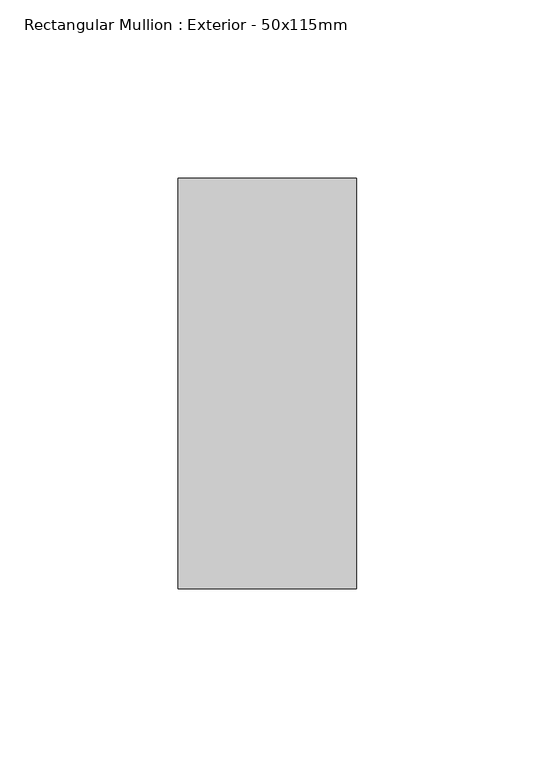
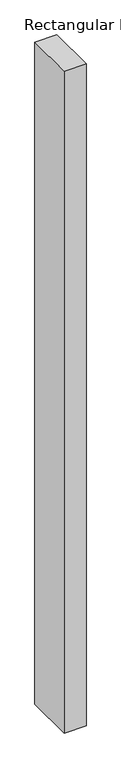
"""IFC4 building model written with IfcOpenShell, lengths in millimetres: member geometry, Rectangular Mullion : Exterior - 50x115mm."""

from ifc_helpers import new_model, si_unit, frame, origin, place, context, project, spatial, polyline, outline, extrude, source, transform, mapped, element, save


def rectangular_mullion_exterior_50x115mm_a06803d9(model_context):
    return source(origin(), model_context, "Body", "SweptSolid", [
        extrude(outline(polyline([(0.0, 107.5), (0.0, -7.5), (-50.0, -7.5), (-50.0, 107.5), (0.0, 107.5)])), frame((0.0, 0.0, -1592.5), z_axis=(0.0, 0.0, 1.0), x_axis=(1.0, 0.0, 0.0)), (0.0, 0.0, 1.0), 1592.5),
    ])


if __name__ == "__main__":
    model = new_model("IFC4")
    model_context = context("Model", 3, world=origin())
    ifc_project = project(units=[si_unit("LENGTHUNIT", "METRE", prefix="MILLI")], contexts=[model_context])
    site = spatial("IfcSite", under=ifc_project)
    building = spatial("IfcBuilding", under=site)
    placement = place(None, origin())
    rectangular_mullion_exterior_50x115mm_shape = rectangular_mullion_exterior_50x115mm_a06803d9(model_context)
    element("IfcMember", 1, ObjectType="Rectangular Mullion : Exterior - 50x115mm", at=placement, inside=building, context=model_context, shape_type="MappedRepresentation", body=[
        mapped(rectangular_mullion_exterior_50x115mm_shape, transform((0.0, 0.0, 0.0), x_axis=(1.0, 0.0, 0.0), y_axis=(0.0, 1.0, 0.0), z_axis=(0.0, 0.0, 1.0))),
    ])
    save(model, "model.ifc")
